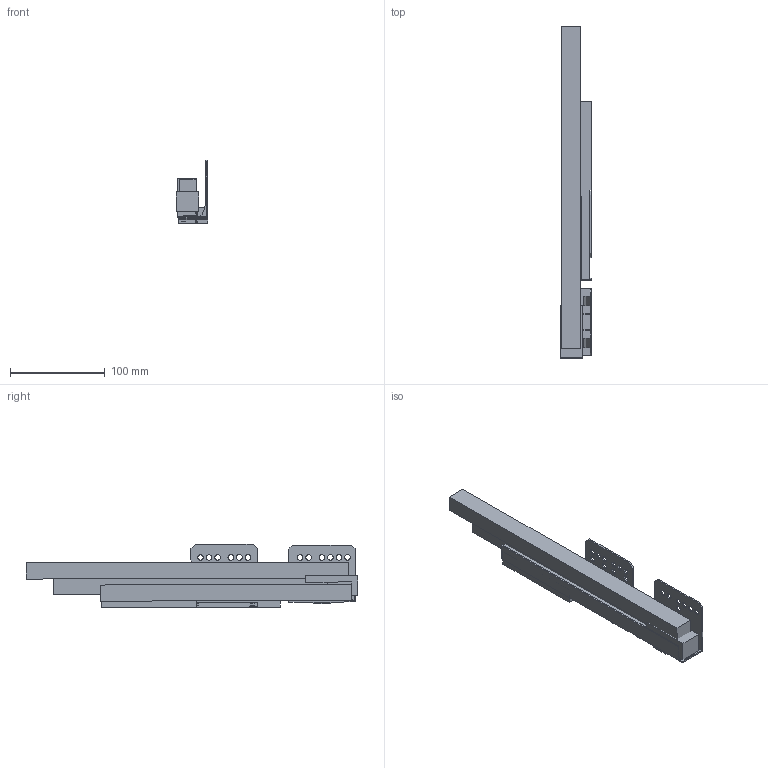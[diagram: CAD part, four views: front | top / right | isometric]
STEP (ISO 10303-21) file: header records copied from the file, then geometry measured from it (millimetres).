
FILE_DESCRIPTION (( 'STEP AP214' ), '1' );
FILE_NAME ('_IMOS Dynamic-XP VA 40kg NL350 RE.step', '2010-07-07T08:06:35', ( 'grass' ), ( '' ), 'SwSTEP 2.0', 'SolidWorks 2010', '' );
FILE_SCHEMA (( 'AUTOMOTIVE_DESIGN' ));
Length unit declared in the file: millimetre
Products named in the file (1): _IMOS Dynamic-XP VA 40kg NL350 RE
Bounding box: 32.79 x 349.89 x 66.67 mm (x, y, z)
Volume: 330067.4 mm3; surface area: 122488.5 mm2
Topology: 7 solids, 7 shells, 151 faces, 411 edges, 274 vertices
Faces by surface type: plane 111, cylinder 40
Entity records: 4913 total; most frequent: CARTESIAN_POINT 837, ORIENTED_EDGE 822, DIRECTION 795, EDGE_CURVE 411, LINE 331, VECTOR 331, VERTEX_POINT 274, AXIS2_PLACEMENT_3D 232
